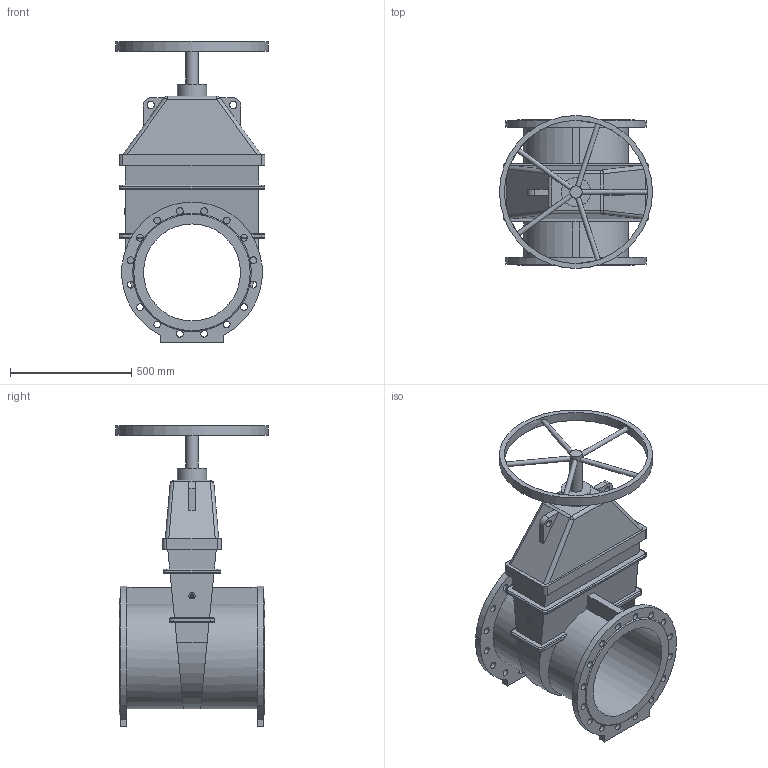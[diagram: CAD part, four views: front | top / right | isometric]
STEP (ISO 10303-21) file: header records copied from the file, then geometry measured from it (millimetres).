
FILE_DESCRIPTION(('STEP AP203'), '1');
FILE_NAME('Çàäâèæêà 47GV DN400 PN10_L600_W630 ñ ìàõîâèêîì', '', ('UNSPECIFIED'), ('UNSPECIFIED'), 'ASCON STEP Converter 1.6', 'ASCON Math Kernel', '');
FILE_SCHEMA(('CONFIG_CONTROL_DESIGN'));
Length unit declared in the file: millimetre
Bounding box: 630 x 630 x 1243 mm (x, y, z)
Volume: 79205285.6 mm3; surface area: 3575279.6 mm2
Topology: 1 solids, 1 shells, 201 faces, 609 edges, 388 vertices
Faces by surface type: cylinder 98, plane 81, bspline 12, torus 8, cone 2
Full cylindrical faces by diameter (mm): 20 x5, 28 x32, 30 x2, 50 x1, 120 x1, 400 x1, 590 x1, 630 x1
Entity records: 12043 total; most frequent: CARTESIAN_POINT 5042, ORIENTED_EDGE 1116, DIRECTION 1084, EDGE_CURVE 558, AXIS2_PLACEMENT_3D 428, VERTEX_POINT 388, EDGE_LOOP 310, FACE_BOUND 253
